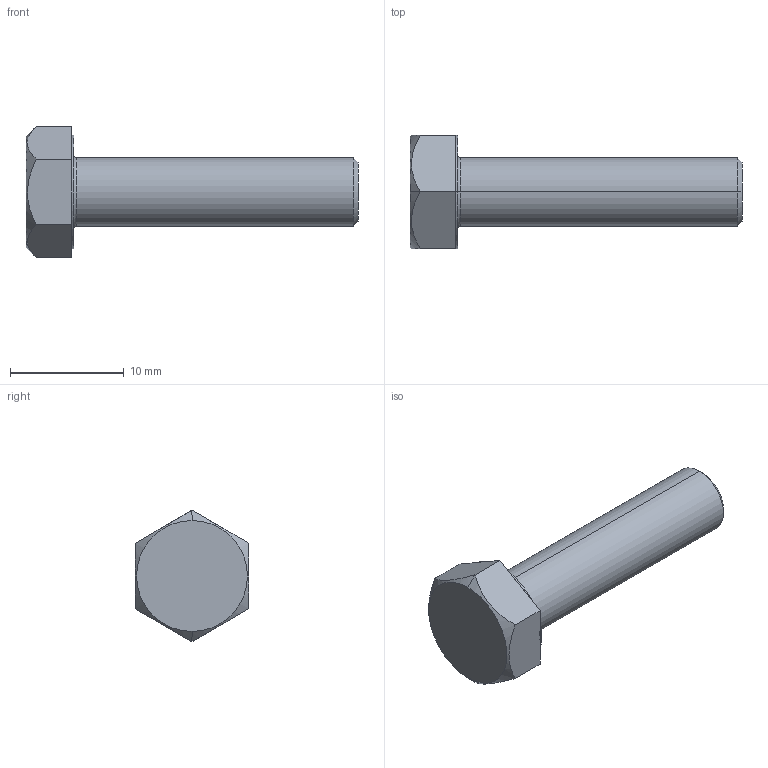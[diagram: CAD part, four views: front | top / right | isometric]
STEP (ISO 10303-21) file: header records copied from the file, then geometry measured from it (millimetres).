
FILE_DESCRIPTION (( 'STEP AP203' ), '1' );
FILE_NAME ('LGN-TD-M6x25.STEP', '2026-08-14T03:54:30', ( '' ), ( '' ), 'SwSTEP 2.0', 'SolidWorks 2020', '' );
FILE_SCHEMA (( 'CONFIG_CONTROL_DESIGN' ));
Length unit declared in the file: millimetre
Products named in the file (1): LGN-TD-M6x25
Bounding box: 29.2 x 10 x 11.55 mm (x, y, z)
Volume: 1064.6 mm3; surface area: 774.5 mm2
Topology: 1 solids, 1 shells, 25 faces, 54 edges, 32 vertices
Faces by surface type: plane 15, cone 4, cylinder 4, torus 2
Entity records: 809 total; most frequent: CARTESIAN_POINT 182, DIRECTION 122, ORIENTED_EDGE 108, EDGE_CURVE 54, AXIS2_PLACEMENT_3D 48, VERTEX_POINT 32, LINE 26, EDGE_LOOP 26
